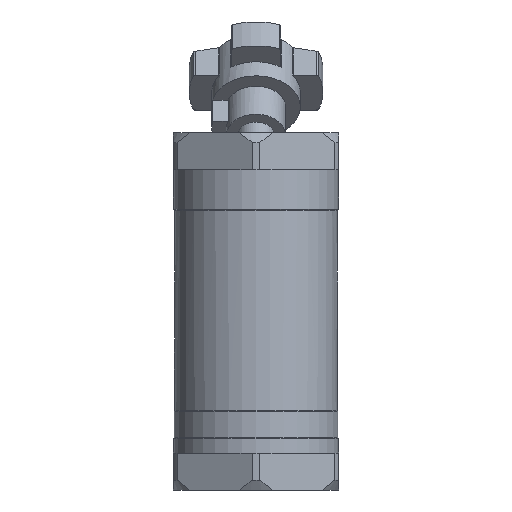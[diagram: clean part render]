
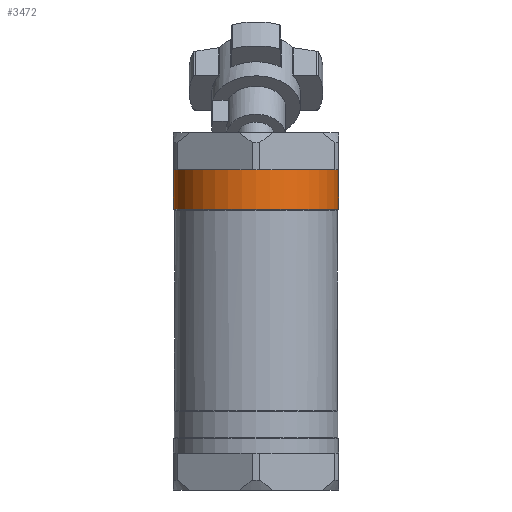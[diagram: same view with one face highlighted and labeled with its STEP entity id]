
A CAD part, front view. The second image highlights one B-rep face of the part: STEP entity #3472.
In plain terms, the highlighted cylindrical face has radius 33.5 mm (diameter 67 mm), a full revolution.
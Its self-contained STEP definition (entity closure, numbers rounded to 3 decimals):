
#3472=ADVANCED_FACE('',(#9420,#9422),#9424,.T.);
#9420=FACE_BOUND('',#9421,.T.);
#9421=EDGE_LOOP('',(#15491,#15492,#15493,#15494,#15495,#15496));
#9422=FACE_OUTER_BOUND('',#9423,.T.);
#9423=EDGE_LOOP('',(#15497));
#9424=CYLINDRICAL_SURFACE('',#9425,33.5);
#9425=AXIS2_PLACEMENT_3D('',#9426,#9427,#9428);
#9426=CARTESIAN_POINT('',(0.,0.,-22.98));
#9427=DIRECTION('',(0.,0.,1.));
#9428=DIRECTION('',(1.,0.,0.));
#15491=ORIENTED_EDGE('',*,*,#18779,.T.);
#15492=ORIENTED_EDGE('',*,*,#18780,.T.);
#15493=ORIENTED_EDGE('',*,*,#18781,.T.);
#15494=ORIENTED_EDGE('',*,*,#18782,.T.);
#15495=ORIENTED_EDGE('',*,*,#18783,.T.);
#15496=ORIENTED_EDGE('',*,*,#18784,.T.);
#15497=ORIENTED_EDGE('',*,*,#18600,.F.);
#18600=EDGE_CURVE('',#21414,#21414,#21415,.F.);
#18779=EDGE_CURVE('',#21701,#21702,#21703,.F.);
#18780=EDGE_CURVE('',#21702,#21704,#21705,.F.);
#18781=EDGE_CURVE('',#21704,#21706,#21707,.F.);
#18782=EDGE_CURVE('',#21706,#21708,#21709,.F.);
#18783=EDGE_CURVE('',#21708,#21710,#21711,.F.);
#18784=EDGE_CURVE('',#21710,#21701,#21712,.F.);
#21414=VERTEX_POINT('',#40845);
#21415=CIRCLE('',#40846,33.5);
#21701=VERTEX_POINT('',#43007);
#21702=VERTEX_POINT('',#43008);
#21703=CIRCLE('',#43009,33.5);
#21704=VERTEX_POINT('',#43013);
#21705=CIRCLE('',#43014,33.5);
#21706=VERTEX_POINT('',#43018);
#21707=CIRCLE('',#43019,33.5);
#21708=VERTEX_POINT('',#43023);
#21709=CIRCLE('',#43024,33.5);
#21710=VERTEX_POINT('',#43028);
#21711=CIRCLE('',#43029,33.5);
#21712=CIRCLE('',#43033,33.5);
#40845=CARTESIAN_POINT('',(33.5,0.,41.5));
#40846=AXIS2_PLACEMENT_3D('',#40847,#40848,#40849);
#40847=CARTESIAN_POINT('',(0.,0.,41.5));
#40848=DIRECTION('',(0.,0.,1.));
#40849=DIRECTION('',(1.,0.,0.));
#43007=CARTESIAN_POINT('',(33.5,0.,57.5));
#43008=CARTESIAN_POINT('',(16.75,-29.012,57.5));
#43009=AXIS2_PLACEMENT_3D('',#43010,#43011,#43012);
#43010=CARTESIAN_POINT('',(0.,0.,57.5));
#43011=DIRECTION('',(0.,0.,1.));
#43012=DIRECTION('',(0.5,-0.866,0.));
#43013=CARTESIAN_POINT('',(-16.75,-29.012,57.5));
#43014=AXIS2_PLACEMENT_3D('',#43015,#43016,#43017);
#43015=CARTESIAN_POINT('',(0.,0.,57.5));
#43016=DIRECTION('',(0.,0.,1.));
#43017=DIRECTION('',(-0.5,-0.866,0.));
#43018=CARTESIAN_POINT('',(-33.5,0.,57.5));
#43019=AXIS2_PLACEMENT_3D('',#43020,#43021,#43022);
#43020=CARTESIAN_POINT('',(0.,0.,57.5));
#43021=DIRECTION('',(0.,0.,1.));
#43022=DIRECTION('',(-1.,0.,0.));
#43023=CARTESIAN_POINT('',(-16.75,29.012,57.5));
#43024=AXIS2_PLACEMENT_3D('',#43025,#43026,#43027);
#43025=CARTESIAN_POINT('',(0.,0.,57.5));
#43026=DIRECTION('',(0.,0.,1.));
#43027=DIRECTION('',(-0.5,0.866,0.));
#43028=CARTESIAN_POINT('',(16.75,29.012,57.5));
#43029=AXIS2_PLACEMENT_3D('',#43030,#43031,#43032);
#43030=CARTESIAN_POINT('',(0.,0.,57.5));
#43031=DIRECTION('',(0.,0.,1.));
#43032=DIRECTION('',(0.5,0.866,0.));
#43033=AXIS2_PLACEMENT_3D('',#43034,#43035,#43036);
#43034=CARTESIAN_POINT('',(0.,0.,57.5));
#43035=DIRECTION('',(0.,0.,1.));
#43036=DIRECTION('',(1.,0.,0.));
